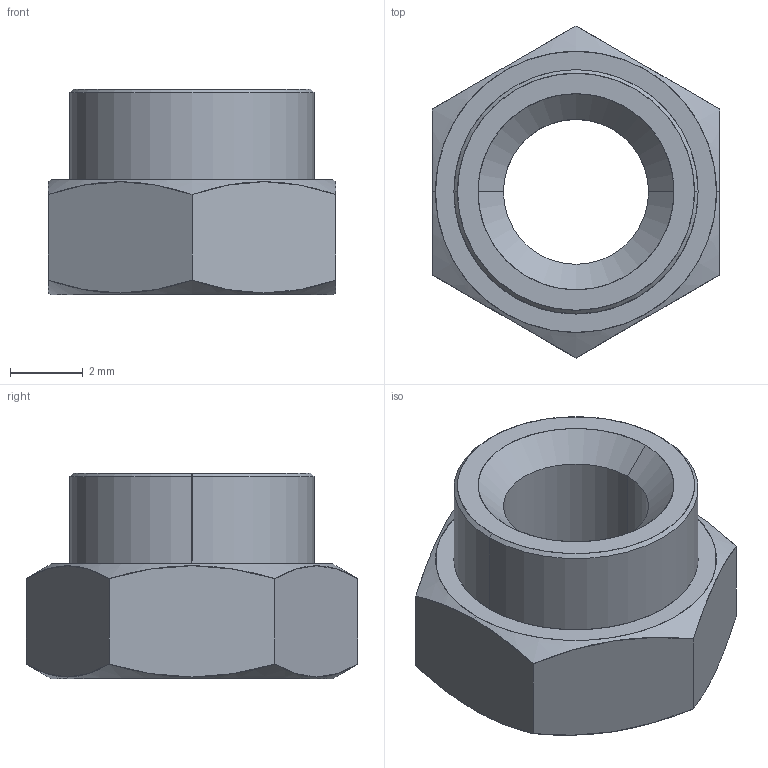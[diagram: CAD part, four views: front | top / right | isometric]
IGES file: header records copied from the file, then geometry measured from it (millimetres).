
Start section: SolidWorks IGES file using analytic representation for surfaces
Global section: file name: C:\Users\liam_\OneDrive\Desktop\Work\Mat Davis Pending 20181125\automotion\P SERIES\P0827.ZP_v2\P0827.ZP_v2_20181231_IGES\P0827.040-14G-ZP.igs; native system: SolidWorks 2017; preprocessor: SolidWorks 2017; author: liam_; date: 181231.110443; units: millimetre
Bounding box: 7.92 x 9.15 x 5.67 mm (x, y, z)
Surface area: 277.1 mm2 (no closed solid volume)
Topology: 0 solids, 0 shells, 23 faces, 376 edges, 376 vertices
Faces by surface type: revolution 14, bspline 9
